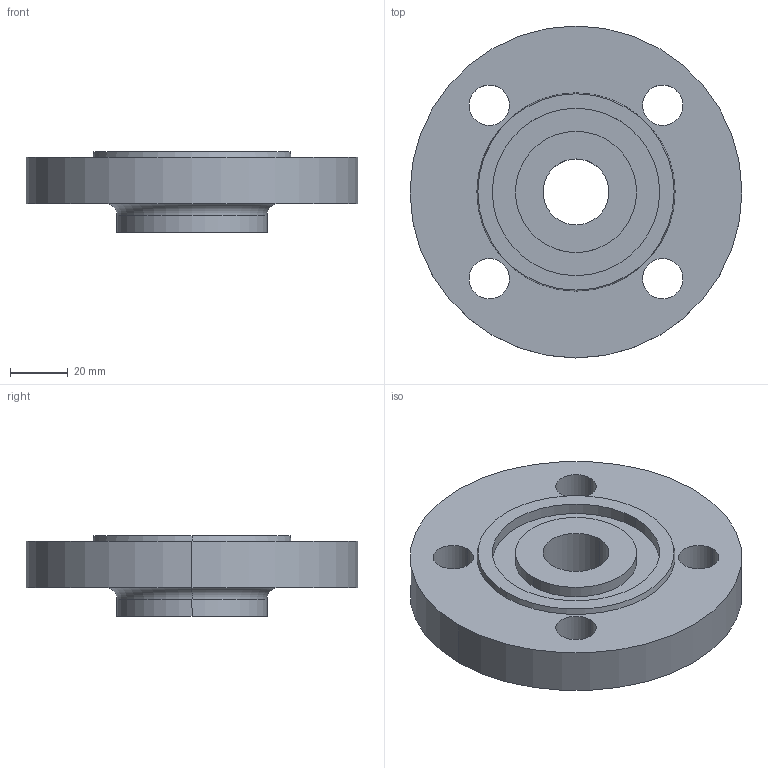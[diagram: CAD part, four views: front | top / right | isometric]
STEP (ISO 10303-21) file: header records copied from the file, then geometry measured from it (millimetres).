
FILE_DESCRIPTION (( 'STEP AP214' ), '1' );
FILE_NAME ('PN40 DN25 Type 13 - Type D Face.STEP', '2018-12-29T20:25:12', ( '' ), ( '' ), 'SwSTEP 2.0', 'SolidWorks 2019', '' );
FILE_SCHEMA (( 'AUTOMOTIVE_DESIGN' ));
Length unit declared in the file: millimetre
Products named in the file (1): PN40 DN25 Type 13 - Type D Face
Bounding box: 115 x 115 x 28 mm (x, y, z)
Volume: 169001 mm3; surface area: 32304.6 mm2
Topology: 1 solids, 1 shells, 28 faces, 64 edges, 42 vertices
Faces by surface type: cylinder 18, plane 6, torus 2, cone 2
Entity records: 870 total; most frequent: DIRECTION 166, CARTESIAN_POINT 135, ORIENTED_EDGE 128, AXIS2_PLACEMENT_3D 73, EDGE_CURVE 64, CIRCLE 44, VERTEX_POINT 42, EDGE_LOOP 42
